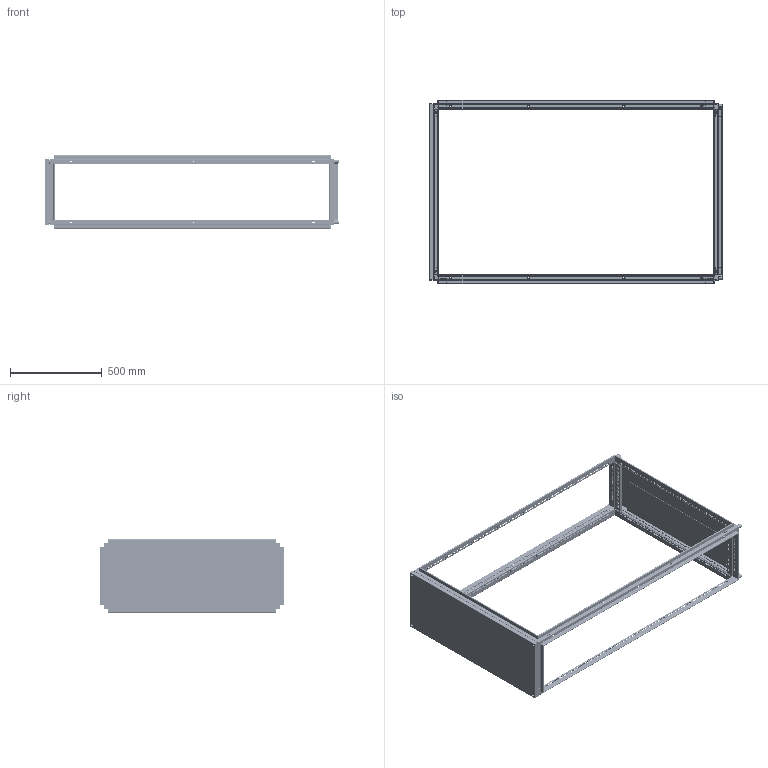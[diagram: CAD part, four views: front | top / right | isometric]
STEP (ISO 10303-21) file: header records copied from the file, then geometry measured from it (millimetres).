
FILE_DESCRIPTION (( 'STEP AP214' ), '1' );
FILE_NAME ('Êàðêàñ1600x1000x400(259523).STEP', '2018-07-05T11:53:52', ( '' ), ( '' ), 'SwSTEP 2.0', 'SolidWorks 2018', '' );
FILE_SCHEMA (( 'AUTOMOTIVE_DESIGN' ));
Length unit declared in the file: millimetre
Products named in the file (11): 忺謤僔1600x1000x400(259523); 瓔鍼賙鍷1000; Êðûøà1000x400; äíî áîêîâèíà400; ﾄ濵1000x400; 忺謤僔1000x400x1600; 赶鎀鍧; 瓔鍐麃鍧鍷1000; Ïðîôèëü400; 橡铘桦铌钼铋1600; Ïðîôèëü1000
Assembly tree (27 placements, depth 3):
  忺謤僔1600x1000x400(259523)
    忺謤僔1000x400x1600
      橡铘桦铌钼铋1600  x4
      Ïðîôèëü400  x4
      赶鎀鍧  x8
      Ïðîôèëü1000  x4
    ﾄ濵1000x400
      äíî áîêîâèíà400  x2
      瓔鍼賙鍷1000
      瓔鍐麃鍧鍷1000
    Êðûøà1000x400
Bounding box: 1600.5 x 1000 x 400 mm (x, y, z)
Volume: 4471045.3 mm3; surface area: 5952568.9 mm2
Topology: 25 solids, 25 shells, 8062 faces, 22532 edges, 14552 vertices
Faces by surface type: plane 5410, cylinder 2620, sphere 24, bspline 8
Entity records: 66873 total; most frequent: CARTESIAN_POINT 11705, ORIENTED_EDGE 11226, DIRECTION 10987, EDGE_CURVE 5613, LINE 4305, VECTOR 4305, VERTEX_POINT 3611, AXIS2_PLACEMENT_3D 3341
